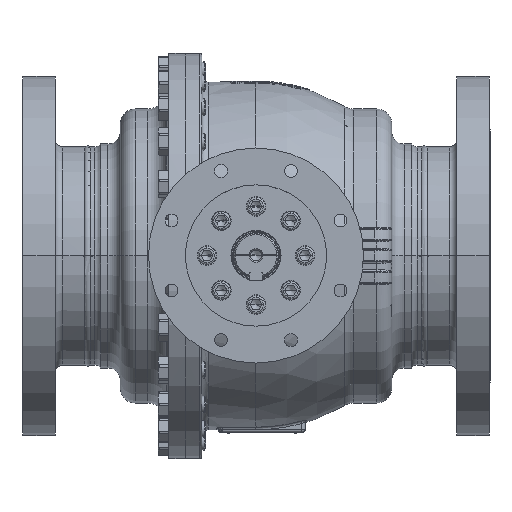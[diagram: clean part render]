
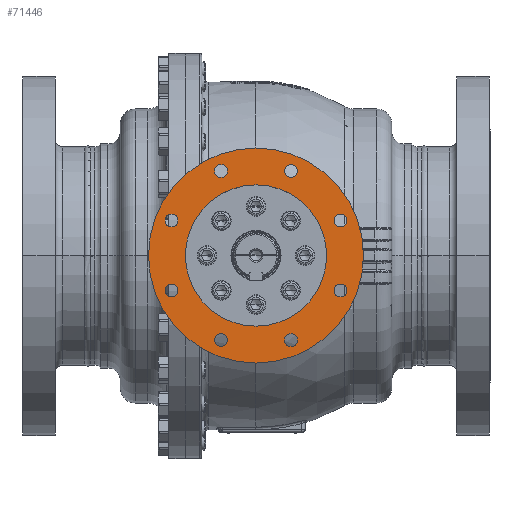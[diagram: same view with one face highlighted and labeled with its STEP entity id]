
A CAD part, top view. The second image highlights one B-rep face of the part: STEP entity #71446.
In plain terms, the highlighted planar face has unit normal (0, 0, 1).
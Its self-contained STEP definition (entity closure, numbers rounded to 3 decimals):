
#3854=CARTESIAN_POINT('',(0.,0.,440.));
#3855=DIRECTION('',(0.,0.,1.));
#3856=DIRECTION('',(1.,0.,0.));
#3857=AXIS2_PLACEMENT_3D('',#3854,#3855,#3856);
#3859=CARTESIAN_POINT('',(0.,0.,440.));
#3860=DIRECTION('',(0.,0.,-1.));
#3861=DIRECTION('',(1.,0.,0.));
#3862=AXIS2_PLACEMENT_3D('',#3859,#3860,#3861);
#3864=CARTESIAN_POINT('',(-57.02,137.658,440.));
#3865=DIRECTION('',(0.,0.,-1.));
#3866=DIRECTION('',(-1.,0.,0.));
#3867=AXIS2_PLACEMENT_3D('',#3864,#3865,#3866);
#3869=CARTESIAN_POINT('',(-57.02,137.658,440.));
#3870=DIRECTION('',(0.,0.,-1.));
#3871=DIRECTION('',(1.,0.,0.));
#3872=AXIS2_PLACEMENT_3D('',#3869,#3870,#3871);
#3874=CARTESIAN_POINT('',(57.02,137.658,440.));
#3875=DIRECTION('',(0.,0.,-1.));
#3876=DIRECTION('',(-0.707,0.707,0.));
#3877=AXIS2_PLACEMENT_3D('',#3874,#3875,#3876);
#3879=CARTESIAN_POINT('',(57.02,137.658,440.));
#3880=DIRECTION('',(0.,0.,-1.));
#3881=DIRECTION('',(0.707,-0.707,0.));
#3882=AXIS2_PLACEMENT_3D('',#3879,#3880,#3881);
#3884=CARTESIAN_POINT('',(137.658,57.02,440.));
#3885=DIRECTION('',(0.,0.,-1.));
#3886=DIRECTION('',(0.,1.,0.));
#3887=AXIS2_PLACEMENT_3D('',#3884,#3885,#3886);
#3889=CARTESIAN_POINT('',(137.658,57.02,440.));
#3890=DIRECTION('',(0.,0.,-1.));
#3891=DIRECTION('',(0.,-1.,0.));
#3892=AXIS2_PLACEMENT_3D('',#3889,#3890,#3891);
#3894=CARTESIAN_POINT('',(137.658,-57.02,440.));
#3895=DIRECTION('',(0.,0.,-1.));
#3896=DIRECTION('',(0.707,0.707,0.));
#3897=AXIS2_PLACEMENT_3D('',#3894,#3895,#3896);
#3899=CARTESIAN_POINT('',(137.658,-57.02,440.));
#3900=DIRECTION('',(0.,0.,-1.));
#3901=DIRECTION('',(-0.707,-0.707,0.));
#3902=AXIS2_PLACEMENT_3D('',#3899,#3900,#3901);
#3904=CARTESIAN_POINT('',(57.02,-137.658,440.));
#3905=DIRECTION('',(0.,0.,-1.));
#3906=DIRECTION('',(1.,0.,0.));
#3907=AXIS2_PLACEMENT_3D('',#3904,#3905,#3906);
#3909=CARTESIAN_POINT('',(57.02,-137.658,440.));
#3910=DIRECTION('',(0.,0.,-1.));
#3911=DIRECTION('',(-1.,0.,0.));
#3912=AXIS2_PLACEMENT_3D('',#3909,#3910,#3911);
#3914=CARTESIAN_POINT('',(-57.02,-137.658,440.));
#3915=DIRECTION('',(0.,0.,-1.));
#3916=DIRECTION('',(0.707,-0.707,0.));
#3917=AXIS2_PLACEMENT_3D('',#3914,#3915,#3916);
#3919=CARTESIAN_POINT('',(-57.02,-137.658,440.));
#3920=DIRECTION('',(0.,0.,-1.));
#3921=DIRECTION('',(-0.707,0.707,0.));
#3922=AXIS2_PLACEMENT_3D('',#3919,#3920,#3921);
#3924=CARTESIAN_POINT('',(-137.658,-57.02,440.));
#3925=DIRECTION('',(0.,0.,-1.));
#3926=DIRECTION('',(0.,-1.,0.));
#3927=AXIS2_PLACEMENT_3D('',#3924,#3925,#3926);
#3929=CARTESIAN_POINT('',(-137.658,-57.02,440.));
#3930=DIRECTION('',(0.,0.,-1.));
#3931=DIRECTION('',(0.,1.,0.));
#3932=AXIS2_PLACEMENT_3D('',#3929,#3930,#3931);
#3934=CARTESIAN_POINT('',(-137.658,57.02,440.));
#3935=DIRECTION('',(0.,0.,-1.));
#3936=DIRECTION('',(-0.707,-0.707,0.));
#3937=AXIS2_PLACEMENT_3D('',#3934,#3935,#3936);
#3939=CARTESIAN_POINT('',(-137.658,57.02,440.));
#3940=DIRECTION('',(0.,0.,-1.));
#3941=DIRECTION('',(0.707,0.707,0.));
#3942=AXIS2_PLACEMENT_3D('',#3939,#3940,#3941);
#3948=CARTESIAN_POINT('',(0.,0.,440.));
#3949=DIRECTION('',(0.,0.,-1.));
#3950=DIRECTION('',(1.,0.,0.));
#3951=AXIS2_PLACEMENT_3D('',#3948,#3949,#3950);
#3957=CARTESIAN_POINT('',(0.,0.,440.));
#3958=DIRECTION('',(0.,0.,1.));
#3959=DIRECTION('',(1.,0.,0.));
#3960=AXIS2_PLACEMENT_3D('',#3957,#3958,#3959);
#66475=CARTESIAN_POINT('',(115.,0.,440.));
#66477=VERTEX_POINT('',#66475);
#66479=CARTESIAN_POINT('',(-115.,0.,440.));
#66481=VERTEX_POINT('',#66479);
#66552=CARTESIAN_POINT('',(175.,0.,440.));
#66554=VERTEX_POINT('',#66552);
#66556=CARTESIAN_POINT('',(-175.,0.,440.));
#66558=VERTEX_POINT('',#66556);
#66631=CARTESIAN_POINT('',(-67.52,137.658,440.));
#66632=CARTESIAN_POINT('',(-46.52,137.658,440.));
#66633=VERTEX_POINT('',#66631);
#66634=VERTEX_POINT('',#66632);
#66639=CARTESIAN_POINT('',(49.595,145.083,440.));
#66640=CARTESIAN_POINT('',(64.444,130.233,440.));
#66641=VERTEX_POINT('',#66639);
#66642=VERTEX_POINT('',#66640);
#66647=CARTESIAN_POINT('',(137.658,67.52,440.));
#66648=CARTESIAN_POINT('',(137.658,46.52,440.));
#66649=VERTEX_POINT('',#66647);
#66650=VERTEX_POINT('',#66648);
#66655=CARTESIAN_POINT('',(145.083,-49.595,440.));
#66656=CARTESIAN_POINT('',(130.233,-64.444,440.));
#66657=VERTEX_POINT('',#66655);
#66658=VERTEX_POINT('',#66656);
#66663=CARTESIAN_POINT('',(67.52,-137.658,440.));
#66664=CARTESIAN_POINT('',(46.52,-137.658,440.));
#66665=VERTEX_POINT('',#66663);
#66666=VERTEX_POINT('',#66664);
#66671=CARTESIAN_POINT('',(-49.595,-145.083,440.));
#66672=CARTESIAN_POINT('',(-64.444,-130.233,440.));
#66673=VERTEX_POINT('',#66671);
#66674=VERTEX_POINT('',#66672);
#66679=CARTESIAN_POINT('',(-137.658,-67.52,440.));
#66680=CARTESIAN_POINT('',(-137.658,-46.52,440.));
#66681=VERTEX_POINT('',#66679);
#66682=VERTEX_POINT('',#66680);
#66687=CARTESIAN_POINT('',(-145.083,49.595,440.));
#66688=CARTESIAN_POINT('',(-130.233,64.444,440.));
#66689=VERTEX_POINT('',#66687);
#66690=VERTEX_POINT('',#66688);
#71383=CARTESIAN_POINT('',(0.,0.,440.));
#71384=DIRECTION('',(0.,0.,1.));
#71385=DIRECTION('',(1.,0.,0.));
#71386=AXIS2_PLACEMENT_3D('',#71383,#71384,#71385);
#71387=PLANE('',#71386);
#71388=ORIENTED_EDGE('',*,*,#71376,.F.);
#71389=ORIENTED_EDGE('',*,*,#71365,.T.);
#71390=EDGE_LOOP('',(#71388,#71389));
#71391=FACE_OUTER_BOUND('',#71390,.F.);
#71393=ORIENTED_EDGE('',*,*,#71392,.F.);
#71395=ORIENTED_EDGE('',*,*,#71394,.T.);
#71396=EDGE_LOOP('',(#71393,#71395));
#71397=FACE_BOUND('',#71396,.F.);
#71399=ORIENTED_EDGE('',*,*,#71398,.F.);
#71401=ORIENTED_EDGE('',*,*,#71400,.F.);
#71402=EDGE_LOOP('',(#71399,#71401));
#71403=FACE_BOUND('',#71402,.F.);
#71405=ORIENTED_EDGE('',*,*,#71404,.F.);
#71407=ORIENTED_EDGE('',*,*,#71406,.F.);
#71408=EDGE_LOOP('',(#71405,#71407));
#71409=FACE_BOUND('',#71408,.F.);
#71411=ORIENTED_EDGE('',*,*,#71410,.F.);
#71413=ORIENTED_EDGE('',*,*,#71412,.F.);
#71414=EDGE_LOOP('',(#71411,#71413));
#71415=FACE_BOUND('',#71414,.F.);
#71417=ORIENTED_EDGE('',*,*,#71416,.F.);
#71419=ORIENTED_EDGE('',*,*,#71418,.F.);
#71420=EDGE_LOOP('',(#71417,#71419));
#71421=FACE_BOUND('',#71420,.F.);
#71423=ORIENTED_EDGE('',*,*,#71422,.F.);
#71425=ORIENTED_EDGE('',*,*,#71424,.F.);
#71426=EDGE_LOOP('',(#71423,#71425));
#71427=FACE_BOUND('',#71426,.F.);
#71429=ORIENTED_EDGE('',*,*,#71428,.F.);
#71431=ORIENTED_EDGE('',*,*,#71430,.F.);
#71432=EDGE_LOOP('',(#71429,#71431));
#71433=FACE_BOUND('',#71432,.F.);
#71435=ORIENTED_EDGE('',*,*,#71434,.F.);
#71437=ORIENTED_EDGE('',*,*,#71436,.F.);
#71438=EDGE_LOOP('',(#71435,#71437));
#71439=FACE_BOUND('',#71438,.F.);
#71441=ORIENTED_EDGE('',*,*,#71440,.F.);
#71443=ORIENTED_EDGE('',*,*,#71442,.F.);
#71444=EDGE_LOOP('',(#71441,#71443));
#71445=FACE_BOUND('',#71444,.F.);
#71446=ADVANCED_FACE('',(#71391,#71397,#71403,#71409,#71415,#71421,#71427,
#71433,#71439,#71445),#71387,.T.);
#3858=CIRCLE('',#3857,175.);
#3863=CIRCLE('',#3862,175.);
#3868=CIRCLE('',#3867,10.5);
#3873=CIRCLE('',#3872,10.5);
#3878=CIRCLE('',#3877,10.5);
#3883=CIRCLE('',#3882,10.5);
#3888=CIRCLE('',#3887,10.5);
#3893=CIRCLE('',#3892,10.5);
#3898=CIRCLE('',#3897,10.5);
#3903=CIRCLE('',#3902,10.5);
#3908=CIRCLE('',#3907,10.5);
#3913=CIRCLE('',#3912,10.5);
#3918=CIRCLE('',#3917,10.5);
#3923=CIRCLE('',#3922,10.5);
#3928=CIRCLE('',#3927,10.5);
#3933=CIRCLE('',#3932,10.5);
#3938=CIRCLE('',#3937,10.5);
#3943=CIRCLE('',#3942,10.5);
#3952=CIRCLE('',#3951,115.);
#3961=CIRCLE('',#3960,115.);
#71365=EDGE_CURVE('',#66554,#66558,#3863,.T.);
#71376=EDGE_CURVE('',#66554,#66558,#3858,.T.);
#71392=EDGE_CURVE('',#66477,#66481,#3952,.T.);
#71394=EDGE_CURVE('',#66477,#66481,#3961,.T.);
#71398=EDGE_CURVE('',#66633,#66634,#3868,.T.);
#71400=EDGE_CURVE('',#66634,#66633,#3873,.T.);
#71404=EDGE_CURVE('',#66641,#66642,#3878,.T.);
#71406=EDGE_CURVE('',#66642,#66641,#3883,.T.);
#71410=EDGE_CURVE('',#66649,#66650,#3888,.T.);
#71412=EDGE_CURVE('',#66650,#66649,#3893,.T.);
#71416=EDGE_CURVE('',#66657,#66658,#3898,.T.);
#71418=EDGE_CURVE('',#66658,#66657,#3903,.T.);
#71422=EDGE_CURVE('',#66665,#66666,#3908,.T.);
#71424=EDGE_CURVE('',#66666,#66665,#3913,.T.);
#71428=EDGE_CURVE('',#66673,#66674,#3918,.T.);
#71430=EDGE_CURVE('',#66674,#66673,#3923,.T.);
#71434=EDGE_CURVE('',#66681,#66682,#3928,.T.);
#71436=EDGE_CURVE('',#66682,#66681,#3933,.T.);
#71440=EDGE_CURVE('',#66689,#66690,#3938,.T.);
#71442=EDGE_CURVE('',#66690,#66689,#3943,.T.);
